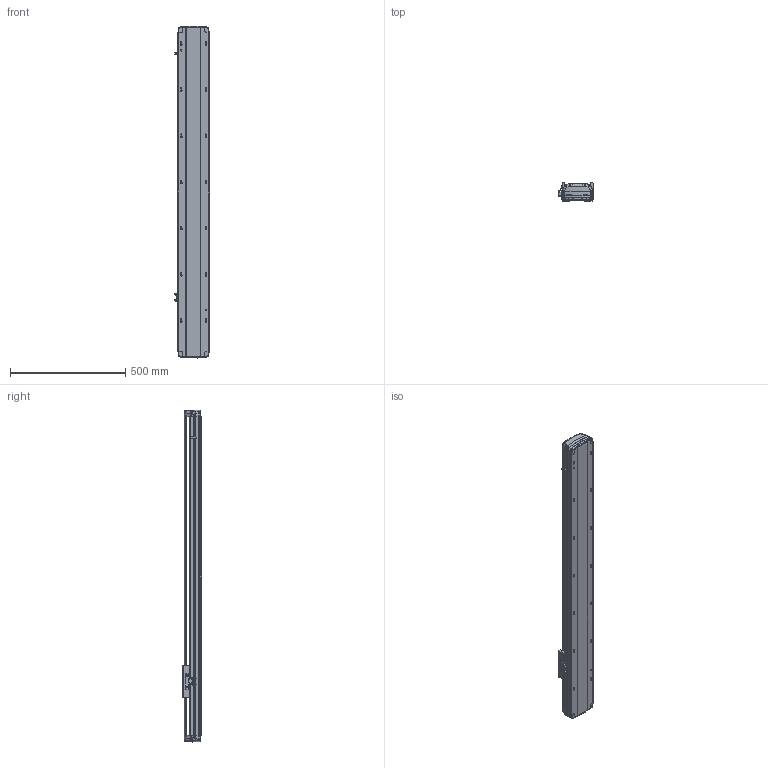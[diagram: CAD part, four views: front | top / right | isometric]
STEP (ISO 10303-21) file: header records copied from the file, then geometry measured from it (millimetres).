
FILE_DESCRIPTION (( 'STEP AP214' ), '1' );
FILE_NAME ('RTH14-XX-1050-B-M20-C4.STEP', '2025-10-25T02:24:44', ( 'Microsoft' ), ( 'Microsoft' ), 'SwSTEP 2.0', 'SolidWorks 2018', '' );
FILE_SCHEMA (( 'AUTOMOTIVE_DESIGN' ));
Length unit declared in the file: millimetre
Products named in the file (7): N_RTH14-B-011P菁釱^RTH14-XX-XX-B-M20-C4; RTH14-XX-1050-B-M20-C4; N_OMRON EE-SX672 传感器^RTH14-XX-XX-B-M20-C4; N_RTH14-R-004-SFSR16賑釱^RTH14-XX-XX-B-M20-C4; N_RTH13-L-012感应片（外置）^RTH14-XX-XX-B-M20-C4; N_RTH14-GY-001P^RTH14-XX-XX-B-M20-C4; N_RTH14-B-007奻裔^RTH14-XX-XX-B-M20-C4
Assembly tree (9 placements, depth 2):
  RTH14-XX-1050-B-M20-C4
    N_RTH14-B-011P菁釱^RTH14-XX-XX-B-M20-C4
    N_RTH14-B-007奻裔^RTH14-XX-XX-B-M20-C4
    N_RTH13-L-012感应片（外置）^RTH14-XX-XX-B-M20-C4
    N_OMRON EE-SX672 传感器^RTH14-XX-XX-B-M20-C4  x3
    N_RTH14-R-004-SFSR16賑釱^RTH14-XX-XX-B-M20-C4
    N_RTH14-GY-001P^RTH14-XX-XX-B-M20-C4  x2
Bounding box: 148.5 x 78.02 x 1438.74 mm (x, y, z)
Volume: 5776979.7 mm3; surface area: 1322094 mm2
Topology: 9 solids, 9 shells, 1954 faces, 5512 edges, 3590 vertices
Faces by surface type: plane 987, cylinder 453, bspline 450, cone 56, torus 8
Entity records: 48032 total; most frequent: CARTESIAN_POINT 21194, ORIENTED_EDGE 6040, DIRECTION 4503, EDGE_CURVE 3020, VERTEX_POINT 1976, LINE 1683, VECTOR 1683, AXIS2_PLACEMENT_3D 1410
